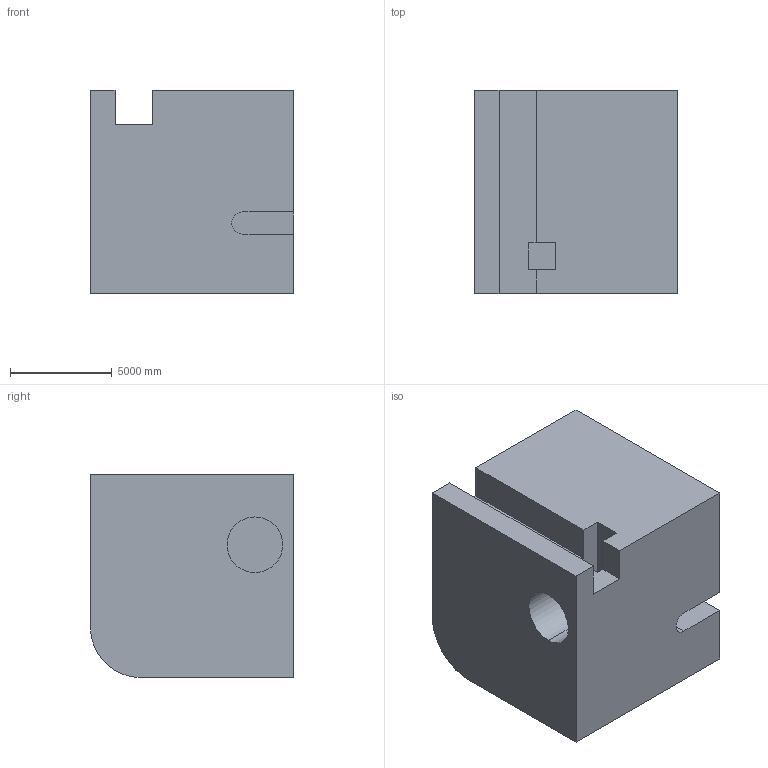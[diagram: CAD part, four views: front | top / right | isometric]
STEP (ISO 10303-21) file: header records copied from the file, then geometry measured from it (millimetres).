
FILE_DESCRIPTION (( 'STEP AP203' ), '1' );
FILE_NAME ('457.STEP', '2022-07-29T11:21:32', ( 'user' ), ( '' ), 'SwSTEP 2.0', 'SolidWorks 2021', '' );
FILE_SCHEMA (( 'CONFIG_CONTROL_DESIGN' ));
Length unit declared in the file: centimetre
Products named in the file (1): 457
Bounding box: 10000 x 10000 x 10000 mm (x, y, z)
Volume: 912543693391.8 mm3; surface area: 697675041.1 mm2
Topology: 1 solids, 1 shells, 24 faces, 63 edges, 42 vertices
Faces by surface type: plane 20, cylinder 4
Entity records: 812 total; most frequent: CARTESIAN_POINT 130, ORIENTED_EDGE 126, DIRECTION 121, EDGE_CURVE 63, LINE 55, VECTOR 55, VERTEX_POINT 42, AXIS2_PLACEMENT_3D 33
